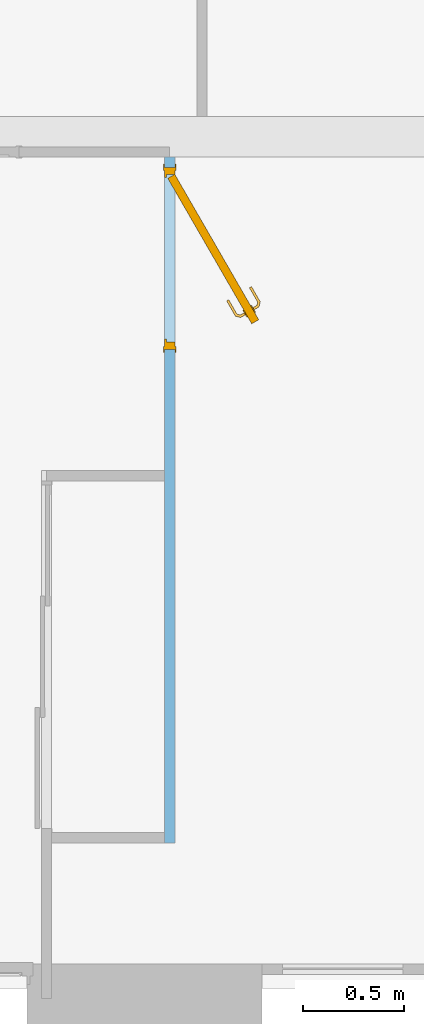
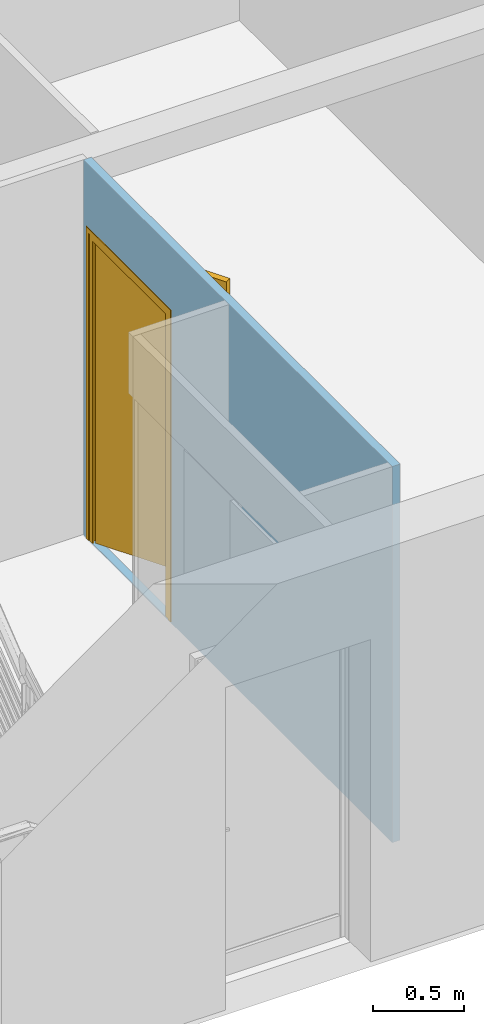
# One storey, part 10 of 12: 1 door, 1 opening, plus 1 element that does not belong to this part.
"""IFC2X3 building model written with IfcOpenShell, lengths in metres."""

from ifc_helpers import new_model, entity, si_unit, converted_unit, derived_unit, direction, frame, frame_2d, origin, place, context, subcontext, project, spatial, rectangle, extrude, faceted_brep, source, transform, mapped, material, material_list, layer, layer_set, layer_usage, type_object, type_shapes, element, fill, save


model = new_model("IFC2X3")

# Units and contexts
model_context = context("Model", 3, precision=1e-05, world=origin(), true_north=direction((6.12303176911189e-17, 1.0)))
context_of_model = context(None, 3, precision=1e-05, world=origin(), true_north=direction((6.12303176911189e-17, 1.0)))
body_context = subcontext(model_context, "Body", "Model", "MODEL_VIEW")
ifc_project = project(units=[si_unit("LENGTHUNIT", "METRE"), si_unit("AREAUNIT", "SQUARE_METRE"), si_unit("VOLUMEUNIT", "CUBIC_METRE"), converted_unit("PLANEANGLEUNIT", "DEGREE", entity("IfcRatioMeasure", 0.0174532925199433), si_unit("PLANEANGLEUNIT", "RADIAN"), dimensions=[0, 0, 0, 0, 0, 0, 0]), si_unit("MASSUNIT", "GRAM", prefix="KILO"), si_unit("TIMEUNIT", "SECOND"), si_unit("FREQUENCYUNIT", "HERTZ"), si_unit("THERMODYNAMICTEMPERATUREUNIT", "DEGREE_CELSIUS"), derived_unit("THERMALTRANSMITTANCEUNIT", [(si_unit("MASSUNIT", "GRAM", prefix="KILO"), 1), (si_unit("THERMODYNAMICTEMPERATUREUNIT", "KELVIN"), -1), (si_unit("TIMEUNIT", "SECOND"), -3)]), derived_unit("VOLUMETRICFLOWRATEUNIT", [(si_unit("LENGTHUNIT", "METRE"), 3), (si_unit("TIMEUNIT", "SECOND"), -1)]), si_unit("ELECTRICCURRENTUNIT", "AMPERE"), si_unit("ELECTRICVOLTAGEUNIT", "VOLT"), si_unit("POWERUNIT", "WATT"), si_unit("FORCEUNIT", "NEWTON", prefix="KILO"), si_unit("ILLUMINANCEUNIT", "LUX"), si_unit("LUMINOUSFLUXUNIT", "LUMEN"), si_unit("LUMINOUSINTENSITYUNIT", "CANDELA"), derived_unit("USERDEFINED", [(si_unit("MASSUNIT", "GRAM", prefix="KILO"), -1), (si_unit("LENGTHUNIT", "METRE"), -2), (si_unit("TIMEUNIT", "SECOND"), 3), (si_unit("LUMINOUSFLUXUNIT", "LUMEN"), 1)]), derived_unit("LINEARVELOCITYUNIT", [(si_unit("LENGTHUNIT", "METRE"), 1), (si_unit("TIMEUNIT", "SECOND"), -1)]), si_unit("PRESSUREUNIT", "PASCAL"), derived_unit("USERDEFINED", [(si_unit("LENGTHUNIT", "METRE"), -2), (si_unit("MASSUNIT", "GRAM", prefix="KILO"), 1), (si_unit("TIMEUNIT", "SECOND"), -2)])], contexts=[model_context, context_of_model])

# Site, building, storey
site_placement = place(None, origin())
site = spatial("IfcSite", under=ifc_project, at=site_placement, Name="Surface", CompositionType="ELEMENT")
building_placement = place(site_placement, origin())
building = spatial("IfcBuilding", under=site, at=building_placement, CompositionType="ELEMENT")
storey_placement = place(building_placement, origin())
storey = spatial("IfcBuildingStorey", under=building, at=storey_placement, Name="Rez de chaussée", CompositionType="ELEMENT", Elevation=0.0)

# Wall, opening, door
ifc_material_1 = material(Name="Maçonnerie - Isolant(1)")
ifc_layer = layer(ifc_material_1, 0.05)
ifc_layer_set = layer_set([ifc_layer], Name="Mur de base:Int. plâtre 50 mm")
ifc_layer_usage = layer_usage(ifc_layer_set, "AXIS2", "NEGATIVE", 0.025)
wall_type = type_object("IfcWallType", Name="Mur de base:Int. plâtre 50 mm", PredefinedType="STANDARD", material=ifc_layer_set)
wall_placement = place(storey_placement, frame((-8.25108881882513, 1.51425578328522, -0.00999999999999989), z_axis=(0.0, 0.0, 1.0), x_axis=(0.0, -1.0, 0.0)))
wall = element("IfcWallStandardCase", 1, at=wall_placement, inside=storey, type_object=wall_type, material=ifc_layer_usage, Name="Mur de base:Int. plâtre 50 mm", ObjectType="Mur de base:Int. plâtre 50 mm", context=body_context, shape_type="SweptSolid", body=[
    extrude(rectangle(XDim=3.39000000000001, YDim=0.0499999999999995, at=frame_2d((1.69500000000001, 0.0), x_axis=(-1.0, 0.0))), origin(), (0.0, 0.0, 1.0), 2.52),
])
opening_placement = place(wall_placement, frame((0.05, -0.025, 0.00999999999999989)))
opening = element("IfcOpeningElement", 2, at=opening_placement, cuts=wall, Name="Int. Simple:PP (0.83m x 2.04m):1", ObjectType="Opening", context=body_context, shape_type="SweptSolid", body=[
    extrude(rectangle(XDim=2.075, YDim=0.9, at=frame_2d((1.0375, 0.45), x_axis=(1.0, 0.0))), frame((0.0, 0.0, 0.0), z_axis=(0.0, 1.0, 0.0), x_axis=(0.0, 0.0, 1.0)), (0.0, 0.0, 1.0), 0.05),
])
ifc_material_2 = material(Name="Finition Peinture - Blanc satiné")
ifc_material_3 = material(Name="Bois - Panneau de porte")
ifc_material_4 = material(Name="Bois - Cadre de porte")
ifc_material_list_1 = material_list([ifc_material_2, ifc_material_3, ifc_material_4])
ifc_material_list_2 = material_list([ifc_material_2, ifc_material_3, ifc_material_4])
door_style = type_object("IfcDoorStyle", Name="PP (0.83m x 2.04m)", ConstructionType="NOTDEFINED", OperationType="SINGLE_SWING_LEFT", ParameterTakesPrecedence=False, Sizeable=False, material=ifc_material_list_2)
shared_shape = source(origin(), body_context, "Body", "Brep", [
    faceted_brep([(0.209626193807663, -0.384153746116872, 0.866003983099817), (0.217980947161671, -0.379330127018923, 0.870000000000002), (0.21798094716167, -0.379330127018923, 1.08), (0.209626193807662, -0.384153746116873, 1.08399601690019), (0.200660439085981, -0.389330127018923, 1.08535898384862), (0.191694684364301, -0.394506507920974, 1.08399601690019), (0.183339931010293, -0.399330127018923, 1.08), (0.183339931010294, -0.399330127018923, 0.870000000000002), (0.191694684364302, -0.394506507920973, 0.866003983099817), (0.200660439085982, -0.389330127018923, 0.86464101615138), (0.207126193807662, -0.379823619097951, 1.08399601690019), (0.21548094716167, -0.375000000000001, 1.08), (0.215480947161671, -0.375000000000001, 0.870000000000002), (0.207126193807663, -0.37982361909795, 0.866003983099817), (0.198160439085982, -0.385, 0.86464101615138), (0.189194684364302, -0.390176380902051, 0.866003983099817), (0.180839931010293, -0.395000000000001, 0.870000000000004), (0.180839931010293, -0.395000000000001, 1.08), (0.189194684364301, -0.390176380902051, 1.08399601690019), (0.198160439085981, -0.385000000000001, 1.08535898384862)], [[[0, 1, 2, 3, 4, 5, 6, 7, 8, 9]], [[10, 11, 12, 13, 14, 15, 16, 17, 18, 19]], [[16, 15, 8, 7]], [[8, 15, 14, 9]], [[14, 13, 0, 9]], [[13, 12, 1, 0]], [[2, 1, 12, 11]], [[11, 10, 3, 2]], [[3, 10, 19, 4]], [[19, 18, 5, 4]], [[18, 17, 6, 5]], [[7, 6, 17, 16]]]),
    faceted_brep([(0.187126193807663, -0.345182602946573, 0.866003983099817), (0.195480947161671, -0.340358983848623, 0.870000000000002), (0.19548094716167, -0.340358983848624, 1.08), (0.187126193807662, -0.345182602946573, 1.08399601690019), (0.178160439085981, -0.350358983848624, 1.08535898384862), (0.169194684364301, -0.355535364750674, 1.08399601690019), (0.160839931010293, -0.360358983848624, 1.08), (0.160839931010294, -0.360358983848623, 0.870000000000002), (0.169194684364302, -0.355535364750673, 0.866003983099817), (0.178160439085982, -0.350358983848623, 0.86464101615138), (0.184626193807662, -0.340852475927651, 1.08399601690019), (0.19298094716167, -0.336028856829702, 1.08), (0.192980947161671, -0.336028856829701, 0.870000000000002), (0.184626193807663, -0.34085247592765, 0.866003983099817), (0.175660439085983, -0.346028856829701, 0.86464101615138), (0.166694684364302, -0.351205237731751, 0.866003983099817), (0.158339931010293, -0.356028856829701, 0.870000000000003), (0.158339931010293, -0.356028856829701, 1.08), (0.166694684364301, -0.351205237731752, 1.08399601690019), (0.175660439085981, -0.346028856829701, 1.08535898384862)], [[[0, 1, 2, 3, 4, 5, 6, 7, 8, 9]], [[10, 11, 12, 13, 14, 15, 16, 17, 18, 19]], [[11, 10, 3, 2]], [[3, 10, 19, 4]], [[19, 18, 5, 4]], [[18, 17, 6, 5]], [[7, 6, 17, 16]], [[16, 15, 8, 7]], [[8, 15, 14, 9]], [[14, 13, 0, 9]], [[13, 12, 1, 0]], [[2, 1, 12, 11]]]),
    faceted_brep([(0.198906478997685, -0.390342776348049, 1.00778044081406), (0.202414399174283, -0.388317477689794, 1.00778044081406), (0.205856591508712, -0.386330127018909, 1.00699999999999), (0.205856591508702, -0.386330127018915, 0.993000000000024), (0.202414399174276, -0.388317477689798, 0.992219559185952), (0.198906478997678, -0.390342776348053, 0.99221955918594), (0.195464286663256, -0.392330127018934, 0.992999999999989), (0.195464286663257, -0.392330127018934, 1.007), (0.20928976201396, -0.416276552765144, 1.007), (0.211908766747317, -0.412863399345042, 1.00778044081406), (0.233831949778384, -0.418737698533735, 1.00778044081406), (0.233259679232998, -0.414390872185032, 1.00778044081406), (0.21457778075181, -0.409385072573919, 1.00778044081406), (0.217196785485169, -0.405971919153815, 1.007), (0.21719678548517, -0.40597191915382, 0.993000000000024), (0.214577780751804, -0.409385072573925, 0.992219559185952), (0.233259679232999, -0.414390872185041, 0.992219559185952), (0.233831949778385, -0.418737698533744, 0.99221955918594), (0.211908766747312, -0.412863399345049, 0.99221955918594), (0.209289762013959, -0.416276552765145, 0.992999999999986), (0.234393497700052, -0.423003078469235, 1.007), (0.232698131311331, -0.410125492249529, 1.007), (0.232698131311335, -0.410125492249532, 0.993000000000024), (0.234393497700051, -0.423003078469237, 0.992999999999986), (0.310293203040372, -0.379182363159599, 0.992999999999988), (0.308305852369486, -0.375740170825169, 0.99221955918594), (0.306280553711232, -0.372232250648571, 0.992219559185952), (0.304293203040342, -0.368790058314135, 0.993000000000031), (0.304293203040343, -0.368790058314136, 1.007), (0.306280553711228, -0.372232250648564, 1.00778044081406), (0.308305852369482, -0.375740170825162, 1.00778044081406), (0.310293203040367, -0.379182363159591, 1.00699999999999), (0.268974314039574, -0.403037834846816, 1.007), (0.270782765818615, -0.395065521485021, 1.0078786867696), (0.268495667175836, -0.389457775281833, 1.007), (0.26849566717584, -0.389457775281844, 0.993000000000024), (0.270782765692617, -0.395065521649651, 0.992121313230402), (0.268974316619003, -0.403037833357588, 0.992999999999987)], [[[0, 1, 2, 3, 4, 5, 6, 7]], [[8, 9, 0, 7]], [[9, 10, 11, 12, 1, 0]], [[12, 13, 2, 1]], [[3, 2, 13, 14]], [[14, 15, 4, 3]], [[15, 16, 17, 18, 5, 4]], [[18, 19, 6, 5]], [[7, 6, 19, 8]], [[20, 10, 9, 8]], [[11, 21, 13, 12]], [[14, 13, 21, 22]], [[22, 16, 15, 14]], [[17, 23, 19, 18]], [[8, 19, 23, 20]], [[24, 25, 26, 27, 28, 29, 30, 31]], [[32, 30, 33]], [[31, 30, 32]], [[10, 20, 32]], [[33, 34, 11]], [[21, 11, 34]], [[34, 29, 28]], [[30, 29, 33]], [[29, 34, 33]], [[10, 32, 33]], [[10, 33, 11]], [[22, 21, 34, 28, 27, 35]], [[35, 26, 36]], [[37, 36, 25]], [[22, 35, 16]], [[35, 27, 26]], [[24, 37, 25]], [[23, 17, 37]], [[37, 17, 36]], [[17, 16, 36]], [[16, 35, 36]], [[25, 36, 26]], [[20, 23, 37, 24, 31, 32]]]),
    faceted_brep([(0.173906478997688, -0.347041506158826, 1.00778044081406), (0.170464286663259, -0.349028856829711, 1.007), (0.17046428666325, -0.349028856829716, 0.992999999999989), (0.17390647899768, -0.34704150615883, 0.99221955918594), (0.177414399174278, -0.345016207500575, 0.992219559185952), (0.180856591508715, -0.343028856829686, 0.993000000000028), (0.180856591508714, -0.343028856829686, 1.007), (0.177414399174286, -0.345016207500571, 1.00778044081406), (0.169613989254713, -0.323556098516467, 0.993000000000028), (0.169613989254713, -0.323556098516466, 1.007), (0.165348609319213, -0.324117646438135, 1.00778044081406), (0.170404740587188, -0.305247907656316, 1.00778044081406), (0.166926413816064, -0.302578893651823, 1.00778044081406), (0.161001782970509, -0.32468991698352, 1.00778044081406), (0.156736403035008, -0.325251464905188, 1.007), (0.156736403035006, -0.325251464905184, 0.992999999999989), (0.1610017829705, -0.324689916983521, 0.99221955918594), (0.166926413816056, -0.302578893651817, 0.99221955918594), (0.17040474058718, -0.30524790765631, 0.992219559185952), (0.165348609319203, -0.324117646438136, 0.992219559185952), (0.17381789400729, -0.307866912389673, 0.993000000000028), (0.17381789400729, -0.307866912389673, 1.007), (0.163513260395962, -0.299959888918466, 1.007), (0.163513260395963, -0.299959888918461, 0.992999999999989), (0.245317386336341, -0.266586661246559, 0.993000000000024), (0.243330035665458, -0.263144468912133, 0.992219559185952), (0.241304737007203, -0.259636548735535, 0.99221955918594), (0.239317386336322, -0.256194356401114, 0.992999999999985), (0.239317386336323, -0.256194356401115, 1.007), (0.241304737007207, -0.259636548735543, 1.00778044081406), (0.243330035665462, -0.263144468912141, 1.00778044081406), (0.245317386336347, -0.26658666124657, 1.007), (0.209567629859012, -0.287226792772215, 0.993000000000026), (0.209567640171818, -0.287226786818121, 1.007), (0.205854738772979, -0.282442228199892, 1.0078786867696), (0.198094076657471, -0.279994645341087, 1.007), (0.198094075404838, -0.279994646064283, 0.992999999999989), (0.205854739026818, -0.282442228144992, 0.992121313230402)], [[[0, 1, 2, 3, 4, 5, 6, 7]], [[6, 5, 8, 9]], [[9, 10, 7, 6]], [[10, 11, 12, 13, 0, 7]], [[13, 14, 1, 0]], [[2, 1, 14, 15]], [[15, 16, 3, 2]], [[16, 17, 18, 19, 4, 3]], [[19, 8, 5, 4]], [[9, 8, 20, 21]], [[21, 11, 10, 9]], [[12, 22, 14, 13]], [[15, 14, 22, 23]], [[23, 17, 16, 15]], [[18, 20, 8, 19]], [[24, 25, 26, 27, 28, 29, 30, 31]], [[21, 20, 32, 24, 31, 33]], [[33, 30, 34]], [[35, 34, 29]], [[21, 33, 11]], [[33, 31, 30]], [[28, 35, 29]], [[22, 12, 35]], [[35, 12, 34]], [[12, 11, 34]], [[11, 33, 34]], [[29, 34, 30]], [[22, 35, 28, 27, 36, 23]], [[36, 26, 37]], [[27, 26, 36]], [[17, 23, 36]], [[37, 32, 18]], [[20, 18, 32]], [[32, 25, 24]], [[26, 25, 37]], [[25, 32, 37]], [[17, 36, 37]], [[17, 37, 18]]]),
    faceted_brep([(0.126198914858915, -0.380358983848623, 2.04), (0.845, 0.0346410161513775, 2.04), (0.844999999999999, 0.0346410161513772, 0.0), (0.126198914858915, -0.380358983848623, 0.0), (0.146198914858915, -0.415, 2.04), (0.146198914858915, -0.415, 0.0), (0.864999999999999, 0.0, 0.0), (0.865, 0.0, 2.04)], [[[0, 1, 2, 3]], [[4, 5, 6, 7]], [[1, 0, 4, 7]], [[2, 1, 7, 6]], [[3, 2, 6, 5]], [[0, 3, 5, 4]]]),
    faceted_brep([(0.0, 0.0, 0.0), (0.0, 0.050000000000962, 0.0), (0.0499999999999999, 0.050000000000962, 0.0), (0.0499999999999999, 0.040000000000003, 0.0), (0.0349999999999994, 0.040000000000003, 0.0), (0.0349999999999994, 0.0, 0.0), (0.0, 0.0, 2.07500000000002), (0.0, 0.050000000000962, 2.07500000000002), (0.900000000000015, 0.050000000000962, 2.07500000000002), (0.900000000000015, 0.050000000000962, 0.0), (0.85, 0.050000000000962, 0.0), (0.85, 0.050000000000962, 2.025), (0.0500000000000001, 0.050000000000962, 2.025), (0.05, 0.040000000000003, 2.025), (0.85, 0.040000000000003, 2.025), (0.85, 0.040000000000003, 0.0), (0.865, 0.040000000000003, 0.0), (0.865, 0.040000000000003, 2.04), (0.0349999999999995, 0.040000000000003, 2.04), (0.0349999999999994, 0.0, 2.04), (0.865, 0.0, 2.04), (0.865, 0.0, 0.0), (0.900000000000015, 0.0, 0.0), (0.900000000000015, 0.0, 2.07500000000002)], [[[0, 1, 2, 3, 4, 5]], [[1, 0, 6, 7]], [[2, 1, 7, 8, 9, 10, 11, 12]], [[3, 2, 12, 13]], [[4, 3, 13, 14, 15, 16, 17, 18]], [[5, 4, 18, 19]], [[0, 5, 19, 20, 21, 22, 23, 6]], [[8, 23, 22, 9]], [[22, 21, 16, 15, 10, 9]], [[14, 11, 10, 15]], [[20, 17, 16, 21]], [[7, 6, 23, 8]], [[13, 12, 11, 14]], [[19, 18, 17, 20]]]),
    faceted_brep([(0.0149999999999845, 0.050000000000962, 0.0), (-0.0150000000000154, 0.050000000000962, 0.0), (-0.0150000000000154, 0.055000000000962, 0.0), (0.0149999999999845, 0.055000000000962, 0.0), (0.0149999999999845, 0.050000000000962, 2.06000000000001), (0.884999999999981, 0.050000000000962, 2.06000000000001), (0.88499999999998, 0.050000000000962, 0.0), (0.91499999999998, 0.050000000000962, 0.0), (0.91499999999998, 0.050000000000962, 2.09000000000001), (-0.0150000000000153, 0.050000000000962, 2.09000000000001), (-0.0150000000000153, 0.055000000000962, 2.09000000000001), (0.91499999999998, 0.055000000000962, 2.09000000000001), (0.91499999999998, 0.055000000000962, 0.0), (0.88499999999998, 0.055000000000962, 0.0), (0.88499999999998, 0.055000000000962, 2.06000000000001), (0.0149999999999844, 0.055000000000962, 2.06000000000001)], [[[0, 1, 2, 3]], [[1, 0, 4, 5, 6, 7, 8, 9]], [[2, 1, 9, 10]], [[3, 2, 10, 11, 12, 13, 14, 15]], [[0, 3, 15, 4]], [[6, 13, 12, 7]], [[5, 14, 13, 6]], [[11, 8, 7, 12]], [[10, 9, 8, 11]], [[4, 15, 14, 5]]]),
    faceted_brep([(-0.0150000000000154, -0.005, 0.0), (0.0149999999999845, -0.005, 0.0), (0.0149999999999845, -0.005, 2.06000000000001), (0.884999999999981, -0.005, 2.06000000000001), (0.88499999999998, -0.005, 0.0), (0.91499999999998, -0.005, 0.0), (0.91499999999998, -0.005, 2.09000000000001), (-0.0150000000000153, -0.005, 2.09000000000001), (-0.0150000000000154, 0.0, 0.0), (-0.0150000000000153, 0.0, 2.09000000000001), (0.0149999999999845, 0.0, 0.0), (0.91499999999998, 0.0, 2.09000000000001), (0.91499999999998, 0.0, 0.0), (0.88499999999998, 0.0, 0.0), (0.88499999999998, 0.0, 2.06000000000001), (0.0149999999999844, 0.0, 2.06000000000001)], [[[0, 1, 2, 3, 4, 5, 6, 7]], [[8, 0, 7, 9]], [[10, 8, 9, 11, 12, 13, 14, 15]], [[1, 10, 15, 2]], [[3, 14, 13, 4]], [[11, 6, 5, 12]], [[9, 7, 6, 11]], [[2, 15, 14, 3]], [[4, 13, 12, 5]], [[1, 0, 8, 10]]]),
])
type_shapes(door_style, [shared_shape])
door_placement = place(opening_placement, frame((0.9, 0.0500000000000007, 0.0), z_axis=(0.0, 0.0, 1.0), x_axis=(-1.0, 0.0, 0.0)))
door = element("IfcDoor", 3, at=door_placement, inside=storey, type_object=door_style, material=ifc_material_list_1, Name="Int. Simple:PP (0.83m x 2.04m)", ObjectType="PP (0.83m x 2.04m)", OverallHeight=2.075, OverallWidth=0.9, context=body_context, shape_type="MappedRepresentation", body=[
    mapped(shared_shape, transform((0.0, 0.0, 0.0), scale=1.0)),
])
fill(opening, door)

save(model, "model.ifc")
